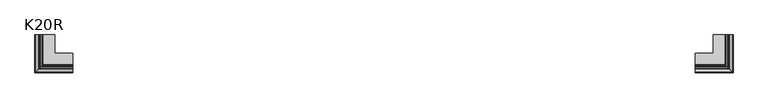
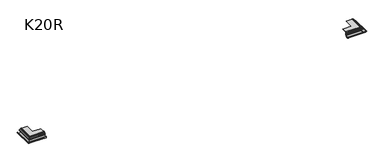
"""IFC4 building model written with IfcOpenShell, lengths in millimetres: proxy geometry, K20R Profil okapowy prosty z rynną : K20R."""

from ifc_helpers import new_model, si_unit, frame, origin, place, context, project, spatial, polyline, circle_curve, ellipse_curve, source, transform, mapped, element, save
from ifc_brep_helpers import plane_surface, cylinder_surface, revolved_surface, advanced_brep


def k20r_cac1ec52(model_context):
    return source(origin(), model_context, "Body", "AdvancedBrep", [
        advanced_brep(
        [(4779.8581812, -6.5000001, -42.1535519), (4779.8581812, -5.0999988, -40.7535506), (4779.8581812, -5.0999988, -45.8728048), (4779.8581812, -7.6128151, -48.2176778), (4779.8581812, -8.1261224, -51.8700476), (4779.8581812, -4.8412617, -50.4757071), (4779.8581812, -5.621057, -52.4241329), (4779.8581812, -8.427087, -54.009508), (4779.8581812, -58.1999995, -50.6475434), (4779.8581812, -56.7240776, -52.5390375), (4779.8581812, -9.7348852, -53.1671491), (4779.8581812, -8.8685397, -47.4134582), (4779.8581812, -6.5000001, -45.117797), (5007.9843036, -8.1261224, -51.8700476), (5004.6994428, -4.8412617, -50.4757071), (5005.4792382, -5.621057, -52.4241329), (5008.2852682, -8.427087, -54.009508), (5058.0581807, -58.1999995, -50.6475434), (5056.5822587, -56.7240776, -52.5390375), (5009.5930664, -9.7348852, -53.1671491), (5008.7267209, -8.8685397, -47.4134582), (5007.4709963, -7.6128151, -48.2176778), (5006.3581813, 220.0, -42.1535519), (5006.3581813, 220.0, -45.117797), (5008.7267209, 220.0, -47.4134582), (5009.5930664, 220.0, -53.1671491), (5056.5822587, 220.0, -52.5390375), (5058.0581807, 220.0, -50.6475434), (5008.2852682, 220.0, -54.009508), (5005.4792382, 220.0, -52.4241329), (5004.6994428, 220.0, -50.4757071), (5007.9843036, 220.0, -51.8700476), (5007.4709963, 220.0, -48.2176778), (5004.95818, 220.0, -45.8728048), (5004.95818, 220.0, -40.7535506), (5006.3581813, -6.5000001, -42.1535519), (5004.95818, -5.0999988, -40.7535506), (5004.95818, -5.0999988, -45.8728048), (5006.3581813, -6.5000001, -45.117797)],
        [
            (0, 1),
            (1, 2),
            (2, 3),
            (3, 4),
            (4, 5),
            (5, 6),
            (6, 7),
            (7, 8, circle_curve(frame((4779.8581812, -33.1999995, -50.6475434), z_axis=(-1.0, 0.0, 0.0), x_axis=(0.0, -1.0, 0.0)), 25.0)),
            (8, 9, circle_curve(frame((4779.8581812, -56.2499995, -50.6475434), z_axis=(-1.0, 0.0, 0.0), x_axis=(0.0, -1.0, 0.0)), 1.95)),
            (9, 10, circle_curve(frame((4779.8581812, -33.1999995, -50.6475434), z_axis=(1.0, 0.0, 0.0), x_axis=(0.0, -1.0, 0.0)), 23.6)),
            (10, 11),
            (11, 12),
            (12, 0),
            (4, 13),
            (13, 14),
            (14, 5),
            (14, 15),
            (15, 6),
            (15, 16),
            (16, 7),
            (16, 17, ellipse_curve(frame((5033.0581807, -33.1999995, -50.6475434), z_axis=(-0.7071067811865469, -0.707106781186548, 0.0), x_axis=(-0.7071067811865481, 0.7071067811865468, 0.0)), 35.3553391, 25.0)),
            (17, 8),
            (17, 18, ellipse_curve(frame((5056.1081807, -56.2499995, -50.6475434), z_axis=(-0.7071067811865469, -0.707106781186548, 0.0), x_axis=(-0.7071067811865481, 0.7071067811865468, 0.0)), 2.7577164, 1.95)),
            (18, 9),
            (18, 19, ellipse_curve(frame((5033.0581807, -33.1999995, -50.6475434), z_axis=(0.7071067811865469, 0.707106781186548, 0.0), x_axis=(0.7071067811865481, -0.7071067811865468, 0.0)), 33.3754401, 23.6)),
            (19, 10),
            (19, 20),
            (20, 11),
            (3, 21),
            (21, 13),
            (22, 23),
            (23, 24),
            (24, 25),
            (25, 26, circle_curve(frame((5033.0581807, 220.0, -50.6475434), z_axis=(0.0, -1.0, 0.0), x_axis=(1.0, 0.0, 0.0)), 23.6)),
            (26, 27, circle_curve(frame((5056.1081807, 220.0, -50.6475434), z_axis=(0.0, 1.0, 0.0), x_axis=(1.0, 0.0, 0.0)), 1.95)),
            (27, 28, circle_curve(frame((5033.0581807, 220.0, -50.6475434), z_axis=(0.0, 1.0, 0.0), x_axis=(1.0, 0.0, 0.0)), 25.0)),
            (28, 29),
            (29, 30),
            (30, 31),
            (31, 32),
            (32, 33),
            (33, 34),
            (34, 22),
            (13, 31),
            (30, 14),
            (29, 15),
            (28, 16),
            (27, 17),
            (26, 18),
            (25, 19),
            (24, 20),
            (21, 32),
            (0, 35),
            (35, 36),
            (36, 1),
            (36, 37),
            (37, 2),
            (37, 21),
            (20, 38),
            (38, 12),
            (38, 35),
            (35, 22),
            (34, 36),
            (33, 37),
            (23, 38),
        ],
        [
            plane_surface(frame((4779.8581812, 0.0, 0.0), z_axis=(-1.0, 0.0, 0.0), x_axis=(0.0, 0.0, 1.0))),
            plane_surface(frame((4779.8581812, -4.8412617, -50.4757071), z_axis=(0.0, -0.3907310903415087, 0.9205048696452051), x_axis=(1.0, 0.0, 0.0))),
            plane_surface(frame((4779.8581812, -5.621057, -52.4241329), z_axis=(0.0, 0.9284068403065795, -0.37156525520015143), x_axis=(1.0, 0.0, 0.0))),
            plane_surface(frame((4779.8581812, -8.427087, -54.009508), z_axis=(0.0, 0.49190631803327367, -0.8706481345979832), x_axis=(1.0, 0.0, 0.0))),
            cylinder_surface(frame((4779.8581812, -33.1999995, -50.6475434), z_axis=(-1.0, 0.0, 0.0), x_axis=(0.0, -1.0, 0.0)), 25.0),
            cylinder_surface(frame((4779.8581812, -56.2499995, -50.6475434), z_axis=(-1.0, 0.0, 0.0), x_axis=(0.0, -1.0, 0.0)), 1.95),
            revolved_surface(polyline([(5056.658180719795, -56.7999995, -50.6475434), (4779.8581812, -56.7999995, -50.6475434)]), (4779.8581812, -33.1999995, -50.6475434), (1.0, 0.0, 0.0)),
            plane_surface(frame((4779.8581812, -8.8685397, -47.4134582), z_axis=(0.0, -0.9888532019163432, 0.14889373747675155), x_axis=(1.0, 0.0, 0.0))),
            plane_surface(frame((4779.8581812, -8.1261224, -51.8700476), z_axis=(0.0, 0.9902680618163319, -0.13917315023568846), x_axis=(1.0, 0.0, 0.0))),
            plane_surface(frame((4999.8581812, 220.0, 0.0), z_axis=(0.0, 1.0, 0.0), x_axis=(0.0, 0.0, 1.0))),
            plane_surface(frame((5004.6994428, -4.8412617, -50.4757071), z_axis=(0.3907310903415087, 0.0, 0.9205048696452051), x_axis=(0.0, 1.0, 0.0))),
            plane_surface(frame((5005.4792382, -5.621057, -52.4241329), z_axis=(-0.9284068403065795, 0.0, -0.37156525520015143), x_axis=(0.0, 1.0, 0.0))),
            plane_surface(frame((5008.2852682, -8.427087, -54.009508), z_axis=(-0.49190631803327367, 0.0, -0.8706481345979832), x_axis=(0.0, 1.0, 0.0))),
            cylinder_surface(frame((5033.0581807, 0.0, -50.6475434), z_axis=(0.0, -1.0, 0.0), x_axis=(1.0, 0.0, 0.0)), 25.0),
            cylinder_surface(frame((5056.1081807, 0.0, -50.6475434), z_axis=(0.0, -1.0, 0.0), x_axis=(1.0, 0.0, 0.0)), 1.95),
            revolved_surface(polyline([(5056.6581807, 220.0, -50.6475434), (5056.6581807, -56.79999951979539, -50.6475434)]), (5033.0581807, 0.0, -50.6475434), (0.0, 1.0, 0.0)),
            plane_surface(frame((5008.7267209, -8.8685397, -47.4134582), z_axis=(0.9888532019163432, 0.0, 0.14889373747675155), x_axis=(0.0, 1.0, 0.0))),
            plane_surface(frame((5007.9843036, -8.1261224, -51.8700476), z_axis=(-0.9902680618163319, 0.0, -0.13917315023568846), x_axis=(0.0, 1.0, 0.0))),
            plane_surface(frame((4779.8581812, -5.0999988, -40.7535506), z_axis=(0.0, -0.7071067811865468, 0.7071067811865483), x_axis=(1.0, 0.0, 0.0))),
            plane_surface(frame((4779.8581812, -5.0999988, -45.8728048), z_axis=(0.0, 1.0, 0.0), x_axis=(1.0, 0.0, 0.0))),
            plane_surface(frame((4779.8581812, -7.6128151, -48.2176778), z_axis=(0.0, 0.6822525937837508, -0.7311165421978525), x_axis=(1.0, 0.0, 0.0))),
            plane_surface(frame((4779.8581812, -6.5000001, -45.117797), z_axis=(0.0, -0.6959732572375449, 0.7180677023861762), x_axis=(1.0, 0.0, 0.0))),
            plane_surface(frame((4779.8581812, -6.5000001, -42.1535519), z_axis=(0.0, -1.0, 0.0), x_axis=(1.0, 0.0, 0.0))),
            plane_surface(frame((5004.95818, -5.0999988, -40.7535506), z_axis=(0.7071067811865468, 0.0, 0.7071067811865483), x_axis=(0.0, 1.0, 0.0))),
            plane_surface(frame((5004.95818, -5.0999988, -45.8728048), z_axis=(-1.0, 0.0, 0.0), x_axis=(0.0, 1.0, 0.0))),
            plane_surface(frame((5007.4709963, -7.6128151, -48.2176778), z_axis=(-0.6822525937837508, 0.0, -0.7311165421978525), x_axis=(0.0, 1.0, 0.0))),
            plane_surface(frame((5006.3581813, -6.5000001, -45.117797), z_axis=(0.6959732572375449, 0.0, 0.7180677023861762), x_axis=(0.0, 1.0, 0.0))),
            plane_surface(frame((5006.3581813, -6.5000001, -42.1535519), z_axis=(1.0, 0.0, 0.0), x_axis=(0.0, 1.0, 0.0))),
        ],
        [
            (0, [[1, 2, 3, 4, 5, 6, 7, 8, 9, 10, 11, 12, 13]]),
            (1, [[14, 15, 16, -5]]),
            (2, [[-16, 17, 18, -6]]),
            (3, [[-18, 19, 20, -7]]),
            (4, [[-20, 21, 22, -8]]),
            (5, [[-22, 23, 24, -9]]),
            (6, [[-24, 25, 26, -10]]),
            (7, [[-26, 27, 28, -11]]),
            (8, [[29, 30, -14, -4]]),
            (9, [[31, 32, 33, 34, 35, 36, 37, 38, 39, 40, 41, 42, 43]]),
            (10, [[44, -39, 45, -15]]),
            (11, [[-45, -38, 46, -17]]),
            (12, [[-46, -37, 47, -19]]),
            (13, [[-47, -36, 48, -21]]),
            (14, [[-48, -35, 49, -23]]),
            (15, [[-49, -34, 50, -25]]),
            (16, [[-50, -33, 51, -27]]),
            (17, [[52, -40, -44, -30]]),
            (18, [[53, 54, 55, -1]]),
            (19, [[-55, 56, 57, -2]]),
            (20, [[-57, 58, -29, -3]]),
            (21, [[-28, 59, 60, -12]]),
            (22, [[-60, 61, -53, -13]]),
            (23, [[62, -43, 63, -54]]),
            (24, [[-63, -42, 64, -56]]),
            (25, [[-64, -41, -52, -58]]),
            (26, [[-51, -32, 65, -59]]),
            (27, [[-65, -31, -62, -61]]),
        ],
    ),
        advanced_brep(
        [(4779.8581812, -4.0000007, -8.2869169), (4779.8581812, -4.0000007, -4.0987801), (4779.8581812, 0.0, 0.0), (4779.8581812, 0.0, -1.6007811), (4779.8581812, -2.3999996, -4.1001397), (4779.8581812, -2.3999996, -9.6198913), (4779.8581812, 87.2999988, -9.6198913), (4779.8581812, 87.2999988, -11.9198912), (4779.8581812, 4.7999993, -11.9198912), (4779.8581812, 4.7999993, -16.6198916), (4779.8581812, 3.6000013, -16.6198916), (4779.8581812, 3.6000013, -11.9198912), (4779.8581812, -1.3999986, -11.9198912), (4779.8581812, -1.3999986, -50.494891), (4779.8581812, -2.8999983, -51.9948908), (4779.8581812, -2.8999983, -11.9198912), (4779.8581812, -3.9703269, -11.9198912), (4779.8581812, -13.5823481, -12.255551), (4779.8581812, -14.4327213, -12.5566837), (4779.8581812, -26.3036302, -21.502055), (4779.8581812, -27.1, -23.0993261), (4779.8581812, -27.1, -27.0198916), (4779.8581812, -28.8, -27.0198916), (4779.8581812, -28.8, -22.750319), (4779.8581812, -27.6054451, -20.3544125), (4779.8581812, -15.4054451, -11.1610531), (4779.8581812, -13.7033457, -10.5587402), (4779.8581812, -5.930201, -10.2872957), (5003.8581818, 220.0, -8.2869169), (5005.7883821, 220.0, -10.2872957), (5013.5615269, 220.0, -10.5587402), (5015.2636263, 220.0, -11.1610531), (5027.4636262, 220.0, -20.3544126), (5028.6581812, 220.0, -22.750319), (5028.6581812, 220.0, -27.0198916), (5026.9581812, 220.0, -27.0198916), (5026.9581812, 220.0, -23.0993261), (5026.1618112, 220.0, -21.5020551), (5014.2909026, 220.0, -12.5566836), (5013.4405293, 220.0, -12.2555508), (5003.828508, 220.0, -11.9198912), (5002.7581795, 220.0, -11.9198912), (5002.7581795, 220.0, -51.9948908), (5001.2581797, 220.0, -50.494891), (5001.2581797, 220.0, -11.9198912), (4996.2581798, 220.0, -11.9198912), (4996.2581798, 220.0, -16.6198916), (4995.0581819, 220.0, -16.6198916), (4995.0581819, 220.0, -11.9198912), (4912.5581823, 220.0, -11.9198912), (4912.5581823, 220.0, -9.6198913), (5002.2581808, 220.0, -9.6198913), (5002.2581808, 220.0, -4.1001397), (4999.8581812, 220.0, -1.6007811), (4999.8581812, 220.0, 0.0), (5003.8581812, 220.0, -4.0987803), (5005.7883821, -5.930201, -10.2872957), (5003.8581818, -4.0000007, -8.2869169), (5026.1618113, -26.3036301, -21.5020551), (5026.9581812, -27.1, -23.0993261), (5026.9581812, -27.1, -27.0198916), (5028.6581812, -28.8, -27.0198916), (5028.6581812, -28.8, -22.750319), (5027.4636263, -27.6054451, -20.3544125), (5015.2636263, -15.4054451, -11.1610531), (5013.5615269, -13.7033457, -10.5587402), (5003.8581818, -4.0000007, -4.0987801), (5014.2909025, -14.4327214, -12.5566836), (5013.4405293, -13.5823481, -12.2555508), (5003.828508, -3.9703269, -11.9198912), (5002.7581795, -2.8999983, -11.9198912), (5002.7581795, -2.8999983, -51.9948908), (5001.2581797, -1.3999986, -50.494891), (5001.2581797, -1.3999986, -11.9198912), (4996.2581798, 3.6000013, -11.9198912), (4996.2581798, 3.6000013, -16.6198916), (4995.0581819, 4.7999993, -16.6198916), (4995.0581819, 4.7999993, -11.9198912), (4912.5581823, 87.2999988, -11.9198912), (4912.5581823, 87.2999988, -9.6198913), (5002.2581808, -2.3999996, -9.6198913), (5002.2581808, -2.3999996, -4.1001397), (4999.8581812, 0.0, -1.6007811), (4999.8581812, 0.0, 0.0)],
        [
            (0, 1),
            (1, 2, circle_curve(frame((4779.8581812, 0.1, -4.0987803), z_axis=(-1.0, 0.0, 0.0), x_axis=(0.0, 1.0, 0.0)), 4.1)),
            (2, 3),
            (3, 4, circle_curve(frame((4779.8581812, 0.1, -4.0987803), z_axis=(1.0, 0.0, 0.0), x_axis=(0.0, 1.0, 0.0)), 2.5)),
            (4, 5),
            (5, 6),
            (6, 7),
            (7, 8),
            (8, 9),
            (9, 10),
            (10, 11),
            (11, 12),
            (12, 13),
            (13, 14),
            (14, 15),
            (15, 16),
            (16, 17),
            (17, 18, circle_curve(frame((4779.8581812, -13.5299988, -13.754637), z_axis=(1.0, 0.0, 0.0), x_axis=(0.0, 1.0, 0.0)), 1.5)),
            (18, 19),
            (19, 20, circle_curve(frame((4779.8581812, -25.1, -23.0993261), z_axis=(1.0, 0.0, 0.0), x_axis=(0.0, 1.0, 0.0)), 2.0)),
            (20, 21),
            (21, 22, circle_curve(frame((4779.8581812, -27.95, -27.0198916), z_axis=(-1.0, 0.0, 0.0), x_axis=(0.0, 1.0, 0.0)), 0.85)),
            (22, 23),
            (23, 24, circle_curve(frame((4779.8581812, -25.8, -22.750319), z_axis=(-1.0, 0.0, 0.0), x_axis=(0.0, 1.0, 0.0)), 3.0)),
            (24, 25),
            (25, 26, circle_curve(frame((4779.8581812, -13.6, -13.5569596), z_axis=(-1.0, 0.0, 0.0), x_axis=(0.0, 1.0, 0.0)), 3.0)),
            (26, 27),
            (27, 0, circle_curve(frame((4779.8581812, -6.0, -8.288514), z_axis=(1.0, 0.0, 0.0), x_axis=(0.0, 1.0, 0.0)), 2.0)),
            (28, 29, circle_curve(frame((5005.8581812, 220.0, -8.288514), z_axis=(0.0, -1.0, 0.0), x_axis=(-1.0, 0.0, 0.0)), 2.0)),
            (29, 30),
            (30, 31, circle_curve(frame((5013.4581812, 220.0, -13.5569596), z_axis=(0.0, 1.0, 0.0), x_axis=(-1.0, 0.0, 0.0)), 3.0)),
            (31, 32),
            (32, 33, circle_curve(frame((5025.6581812, 220.0, -22.750319), z_axis=(0.0, 1.0, 0.0), x_axis=(-1.0, 0.0, 0.0)), 3.0)),
            (33, 34),
            (34, 35, circle_curve(frame((5027.8081812, 220.0, -27.0198916), z_axis=(0.0, 1.0, 0.0), x_axis=(-1.0, 0.0, 0.0)), 0.85)),
            (35, 36),
            (36, 37, circle_curve(frame((5024.9581812, 220.0, -23.0993261), z_axis=(0.0, -1.0, 0.0), x_axis=(-1.0, 0.0, 0.0)), 2.0)),
            (37, 38),
            (38, 39, circle_curve(frame((5013.3881799, 220.0, -13.754637), z_axis=(0.0, -1.0, 0.0), x_axis=(-1.0, 0.0, 0.0)), 1.5)),
            (39, 40),
            (40, 41),
            (41, 42),
            (42, 43),
            (43, 44),
            (44, 45),
            (45, 46),
            (46, 47),
            (47, 48),
            (48, 49),
            (49, 50),
            (50, 51),
            (51, 52),
            (52, 53, circle_curve(frame((4999.7581812, 220.0, -4.0987803), z_axis=(0.0, -1.0, 0.0), x_axis=(-1.0, 0.0, 0.0)), 2.5)),
            (53, 54),
            (54, 55, circle_curve(frame((4999.7581812, 220.0, -4.0987803), z_axis=(0.0, 1.0, 0.0), x_axis=(-1.0, 0.0, 0.0)), 4.1)),
            (55, 28),
            (27, 56),
            (56, 57, ellipse_curve(frame((5005.8581812, -6.0, -8.288514), z_axis=(0.7071067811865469, 0.7071067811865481, 0.0), x_axis=(0.7071067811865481, -0.7071067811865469, 0.0)), 2.8284271, 2.0)),
            (57, 0),
            (19, 58),
            (58, 59, ellipse_curve(frame((5024.9581812, -25.1, -23.0993261), z_axis=(0.7071067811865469, 0.7071067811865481, 0.0), x_axis=(0.7071067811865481, -0.7071067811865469, 0.0)), 2.8284271, 2.0)),
            (59, 20),
            (59, 60),
            (60, 21),
            (60, 61, ellipse_curve(frame((5027.8081812, -27.95, -27.0198916), z_axis=(-0.7071067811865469, -0.7071067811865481, 0.0), x_axis=(-0.7071067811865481, 0.7071067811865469, 0.0)), 1.2020815, 0.85)),
            (61, 22),
            (61, 62),
            (62, 23),
            (62, 63, ellipse_curve(frame((5025.6581812, -25.8, -22.750319), z_axis=(-0.7071067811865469, -0.7071067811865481, 0.0), x_axis=(-0.7071067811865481, 0.7071067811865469, 0.0)), 4.2426407, 3.0)),
            (63, 24),
            (63, 64),
            (64, 25),
            (64, 65, ellipse_curve(frame((5013.4581812, -13.6, -13.5569596), z_axis=(-0.7071067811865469, -0.7071067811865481, 0.0), x_axis=(-0.7071067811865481, 0.7071067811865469, 0.0)), 4.2426407, 3.0)),
            (65, 26),
            (65, 56),
            (57, 66),
            (66, 1),
            (56, 29),
            (28, 57),
            (58, 37),
            (36, 59),
            (35, 60),
            (34, 61),
            (33, 62),
            (32, 63),
            (31, 64),
            (30, 65),
            (55, 66),
            (18, 67),
            (67, 58),
            (17, 68),
            (68, 67, ellipse_curve(frame((5013.3881799, -13.5299988, -13.754637), z_axis=(0.7071067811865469, 0.7071067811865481, 0.0), x_axis=(0.7071067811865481, -0.7071067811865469, 0.0)), 2.1213203, 1.5)),
            (16, 69),
            (69, 68),
            (15, 70),
            (70, 41),
            (40, 69),
            (14, 71),
            (71, 70),
            (13, 72),
            (72, 71),
            (12, 73),
            (73, 72),
            (11, 74),
            (74, 45),
            (44, 73),
            (10, 75),
            (75, 74),
            (9, 76),
            (76, 47),
            (46, 75),
            (8, 77),
            (77, 76),
            (7, 78),
            (78, 49),
            (48, 77),
            (6, 79),
            (79, 78),
            (5, 80),
            (80, 51),
            (50, 79),
            (4, 81),
            (81, 80),
            (3, 82),
            (82, 81, ellipse_curve(frame((4999.7581812, 0.1, -4.0987803), z_axis=(0.7071067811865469, 0.7071067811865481, 0.0), x_axis=(0.7071067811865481, -0.7071067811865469, 0.0)), 3.5355339, 2.5)),
            (2, 83),
            (83, 82),
            (66, 83, ellipse_curve(frame((4999.7581812, 0.1, -4.0987803), z_axis=(-0.7071067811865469, -0.7071067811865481, 0.0), x_axis=(-0.7071067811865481, 0.7071067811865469, 0.0)), 5.7982756, 4.1)),
            (67, 38),
            (68, 39),
            (71, 42),
            (72, 43),
            (81, 52),
            (82, 53),
            (83, 54),
        ],
        [
            plane_surface(frame((4779.8581812, 0.0, 0.0), z_axis=(-1.0, 0.0, 0.0), x_axis=(0.0, 0.0, 1.0))),
            plane_surface(frame((4999.8581812, 220.0, 0.0), z_axis=(0.0, 1.0, 0.0), x_axis=(0.0, 0.0, 1.0))),
            revolved_surface(polyline([(5007.858181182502, -4.0, -8.288514), (4779.8581812, -4.0, -8.288514)]), (4779.8581812, -6.0, -8.288514), (1.0, 0.0, 0.0)),
            revolved_surface(polyline([(5026.9581812, -23.1, -23.0993261), (4779.8581812, -23.1, -23.0993261)]), (4779.8581812, -25.1, -23.0993261), (1.0, 0.0, 0.0)),
            plane_surface(frame((4779.8581812, -27.1, -27.0198916), z_axis=(0.0, 1.0, 0.0), x_axis=(1.0, 0.0, 0.0))),
            cylinder_surface(frame((4779.8581812, -27.95, -27.0198916), z_axis=(-1.0, 0.0, 0.0), x_axis=(0.0, 1.0, 0.0)), 0.85),
            plane_surface(frame((4779.8581812, -28.8, -22.750319), z_axis=(0.0, -1.0, 0.0), x_axis=(1.0, 0.0, 0.0))),
            cylinder_surface(frame((4779.8581812, -25.8, -22.750319), z_axis=(-1.0, 0.0, 0.0), x_axis=(0.0, 1.0, 0.0)), 3.0),
            plane_surface(frame((4779.8581812, -15.4054451, -11.1610531), z_axis=(0.0, -0.6018150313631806, 0.7986355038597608), x_axis=(1.0, 0.0, 0.0))),
            cylinder_surface(frame((4779.8581812, -13.6, -13.5569596), z_axis=(-1.0, 0.0, 0.0), x_axis=(0.0, 1.0, 0.0)), 3.0),
            plane_surface(frame((4779.8581812, -5.930201, -10.2872957), z_axis=(0.0, -0.03489952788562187, 0.9993908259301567), x_axis=(1.0, 0.0, 0.0))),
            plane_surface(frame((4779.8581812, -4.0000007, -4.0987801), z_axis=(0.0, -1.0, 0.0), x_axis=(1.0, 0.0, 0.0))),
            revolved_surface(polyline([(5003.8581812, 220.0, -8.288514), (5003.8581812, -7.9999999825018, -8.288514)]), (5005.8581812, 0.0, -8.288514), (0.0, 1.0, 0.0)),
            revolved_surface(polyline([(5022.9581812, 220.0, -23.0993261), (5022.9581812, -27.1, -23.0993261)]), (5024.9581812, 0.0, -23.0993261), (0.0, 1.0, 0.0)),
            plane_surface(frame((5026.9581812, -27.1, -27.0198916), z_axis=(-1.0, 0.0, 0.0), x_axis=(0.0, 1.0, 0.0))),
            cylinder_surface(frame((5027.8081812, 0.0, -27.0198916), z_axis=(0.0, -1.0, 0.0), x_axis=(-1.0, 0.0, 0.0)), 0.85),
            plane_surface(frame((5028.6581812, -28.8, -22.750319), z_axis=(1.0, 0.0, 0.0), x_axis=(0.0, 1.0, 0.0))),
            cylinder_surface(frame((5025.6581812, 0.0, -22.750319), z_axis=(0.0, -1.0, 0.0), x_axis=(-1.0, 0.0, 0.0)), 3.0),
            plane_surface(frame((5015.2636263, -15.4054451, -11.1610531), z_axis=(0.6018150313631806, 0.0, 0.7986355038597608), x_axis=(0.0, 1.0, 0.0))),
            cylinder_surface(frame((5013.4581812, 0.0, -13.5569596), z_axis=(0.0, -1.0, 0.0), x_axis=(-1.0, 0.0, 0.0)), 3.0),
            plane_surface(frame((5005.7883821, -5.930201, -10.2872957), z_axis=(0.03489952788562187, 0.0, 0.9993908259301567), x_axis=(0.0, 1.0, 0.0))),
            plane_surface(frame((5003.8581818, -4.0000007, -4.0987801), z_axis=(1.0, 0.0, 0.0), x_axis=(0.0, 1.0, 0.0))),
            plane_surface(frame((4779.8581812, -26.3036302, -21.502055), z_axis=(0.0, 0.6018150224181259, -0.7986355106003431), x_axis=(1.0, 0.0, 0.0))),
            revolved_surface(polyline([(5014.888179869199, -12.0299988, -13.754637), (4779.8581812, -12.0299988, -13.754637)]), (4779.8581812, -13.5299988, -13.754637), (1.0, 0.0, 0.0)),
            plane_surface(frame((4779.8581812, -13.5823481, -12.255551), z_axis=(0.0, 0.034899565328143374, -0.9993908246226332), x_axis=(1.0, 0.0, 0.0))),
            plane_surface(frame((4779.8581812, -3.9703269, -11.9198912), z_axis=(0.0, 0.0, -1.0), x_axis=(1.0, 0.0, 0.0))),
            plane_surface(frame((4779.8581812, -2.8999983, -11.9198912), z_axis=(0.0, -1.0, 0.0), x_axis=(1.0, 0.0, 0.0))),
            plane_surface(frame((4779.8581812, -2.8999983, -51.9948908), z_axis=(0.0, 0.7071067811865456, -0.7071067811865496), x_axis=(1.0, 0.0, 0.0))),
            plane_surface(frame((4779.8581812, -1.3999986, -50.494891), z_axis=(0.0, 1.0, 0.0), x_axis=(1.0, 0.0, 0.0))),
            plane_surface(frame((4779.8581812, -1.3999986, -11.9198912), z_axis=(0.0, 0.0, -1.0), x_axis=(1.0, 0.0, 0.0))),
            plane_surface(frame((4779.8581812, 3.6000013, -11.9198912), z_axis=(0.0, -1.0, 0.0), x_axis=(1.0, 0.0, 0.0))),
            plane_surface(frame((4779.8581812, 3.6000013, -16.6198916), z_axis=(0.0, 0.0, -1.0), x_axis=(1.0, 0.0, 0.0))),
            plane_surface(frame((4779.8581812, 4.7999993, -16.6198916), z_axis=(0.0, 1.0, 0.0), x_axis=(1.0, 0.0, 0.0))),
            plane_surface(frame((4779.8581812, 4.7999993, -11.9198912), z_axis=(0.0, 0.0, -1.0), x_axis=(1.0, 0.0, 0.0))),
            plane_surface(frame((4779.8581812, 87.2999988, -11.9198912), z_axis=(0.0, 1.0, 0.0), x_axis=(1.0, 0.0, 0.0))),
            plane_surface(frame((4779.8581812, 87.2999988, -9.6198913), z_axis=(0.0, 0.0, 1.0), x_axis=(1.0, 0.0, 0.0))),
            plane_surface(frame((4779.8581812, -2.3999996, -9.6198913), z_axis=(0.0, 1.0, 0.0), x_axis=(1.0, 0.0, 0.0))),
            revolved_surface(polyline([(5002.258181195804, 2.6, -4.0987803), (4779.8581812, 2.6, -4.0987803)]), (4779.8581812, 0.1, -4.0987803), (1.0, 0.0, 0.0)),
            plane_surface(frame((4779.8581812, 0.0, -1.6007811), z_axis=(0.0, 1.0, 0.0), x_axis=(1.0, 0.0, 0.0))),
            cylinder_surface(frame((4779.8581812, 0.1, -4.0987803), z_axis=(-1.0, 0.0, 0.0), x_axis=(0.0, 1.0, 0.0)), 4.1),
            plane_surface(frame((5026.1618113, -26.3036302, -21.502055), z_axis=(-0.6018150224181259, 0.0, -0.7986355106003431), x_axis=(0.0, 1.0, 0.0))),
            revolved_surface(polyline([(5011.8881799, 220.0, -13.754637), (5011.8881799, -15.029998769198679, -13.754637)]), (5013.3881799, 0.0, -13.754637), (0.0, 1.0, 0.0)),
            plane_surface(frame((5013.4405293, -13.5823481, -12.255551), z_axis=(-0.034899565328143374, 0.0, -0.9993908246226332), x_axis=(0.0, 1.0, 0.0))),
            plane_surface(frame((5002.7581795, -2.8999983, -11.9198912), z_axis=(1.0, 0.0, 0.0), x_axis=(0.0, 1.0, 0.0))),
            plane_surface(frame((5002.7581795, -2.8999983, -51.9948908), z_axis=(-0.7071067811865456, 0.0, -0.7071067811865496), x_axis=(0.0, 1.0, 0.0))),
            plane_surface(frame((5001.2581797, -1.3999986, -50.494891), z_axis=(-1.0, 0.0, 0.0), x_axis=(0.0, 1.0, 0.0))),
            plane_surface(frame((4996.2581798, 3.6000013, -11.9198912), z_axis=(1.0, 0.0, 0.0), x_axis=(0.0, 1.0, 0.0))),
            plane_surface(frame((4995.0581819, 4.7999993, -16.6198916), z_axis=(-1.0, 0.0, 0.0), x_axis=(0.0, 1.0, 0.0))),
            plane_surface(frame((4912.5581823, 87.2999988, -11.9198912), z_axis=(-1.0, 0.0, 0.0), x_axis=(0.0, 1.0, 0.0))),
            plane_surface(frame((5002.2581808, -2.3999996, -9.6198913), z_axis=(-1.0, 0.0, 0.0), x_axis=(0.0, 1.0, 0.0))),
            revolved_surface(polyline([(4997.2581812, 220.0, -4.0987803), (4997.2581812, -2.3999999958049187, -4.0987803)]), (4999.7581812, 0.0, -4.0987803), (0.0, 1.0, 0.0)),
            plane_surface(frame((4999.8581812, 0.0, -1.6007811), z_axis=(-1.0, 0.0, 0.0), x_axis=(0.0, 1.0, 0.0))),
            cylinder_surface(frame((4999.7581812, 0.0, -4.0987803), z_axis=(0.0, -1.0, 0.0), x_axis=(-1.0, 0.0, 0.0)), 4.1),
        ],
        [
            (0, [[1, 2, 3, 4, 5, 6, 7, 8, 9, 10, 11, 12, 13, 14, 15, 16, 17, 18, 19, 20, 21, 22, 23, 24, 25, 26, 27, 28]]),
            (1, [[29, 30, 31, 32, 33, 34, 35, 36, 37, 38, 39, 40, 41, 42, 43, 44, 45, 46, 47, 48, 49, 50, 51, 52, 53, 54, 55, 56]]),
            (2, [[57, 58, 59, -28]]),
            (3, [[60, 61, 62, -20]]),
            (4, [[-62, 63, 64, -21]]),
            (5, [[-64, 65, 66, -22]]),
            (6, [[-66, 67, 68, -23]]),
            (7, [[-68, 69, 70, -24]]),
            (8, [[-70, 71, 72, -25]]),
            (9, [[-72, 73, 74, -26]]),
            (10, [[-74, 75, -57, -27]]),
            (11, [[-59, 76, 77, -1]]),
            (12, [[78, -29, 79, -58]]),
            (13, [[80, -37, 81, -61]]),
            (14, [[-81, -36, 82, -63]]),
            (15, [[-82, -35, 83, -65]]),
            (16, [[-83, -34, 84, -67]]),
            (17, [[-84, -33, 85, -69]]),
            (18, [[-85, -32, 86, -71]]),
            (19, [[-86, -31, 87, -73]]),
            (20, [[-87, -30, -78, -75]]),
            (21, [[-79, -56, 88, -76]]),
            (22, [[89, 90, -60, -19]]),
            (23, [[91, 92, -89, -18]]),
            (24, [[93, 94, -91, -17]]),
            (25, [[95, 96, -41, 97, -93, -16]]),
            (26, [[98, 99, -95, -15]]),
            (27, [[100, 101, -98, -14]]),
            (28, [[102, 103, -100, -13]]),
            (29, [[104, 105, -45, 106, -102, -12]]),
            (30, [[107, 108, -104, -11]]),
            (31, [[109, 110, -47, 111, -107, -10]]),
            (32, [[112, 113, -109, -9]]),
            (33, [[114, 115, -49, 116, -112, -8]]),
            (34, [[117, 118, -114, -7]]),
            (35, [[119, 120, -51, 121, -117, -6]]),
            (36, [[122, 123, -119, -5]]),
            (37, [[124, 125, -122, -4]]),
            (38, [[126, 127, -124, -3]]),
            (39, [[-77, 128, -126, -2]]),
            (40, [[129, -38, -80, -90]]),
            (41, [[130, -39, -129, -92]]),
            (42, [[-97, -40, -130, -94]]),
            (43, [[131, -42, -96, -99]]),
            (44, [[132, -43, -131, -101]]),
            (45, [[-106, -44, -132, -103]]),
            (46, [[-111, -46, -105, -108]]),
            (47, [[-116, -48, -110, -113]]),
            (48, [[-121, -50, -115, -118]]),
            (49, [[133, -52, -120, -123]]),
            (50, [[134, -53, -133, -125]]),
            (51, [[135, -54, -134, -127]]),
            (52, [[-88, -55, -135, -128]]),
        ],
    ),
        advanced_brep(
        [(220.0, -6.5000001, -42.1535519), (220.0, -6.5000001, -45.117797), (220.0, -8.8685397, -47.4134582), (220.0, -9.7348852, -53.1671491), (220.0, -56.7240776, -52.5390375), (220.0, -58.1999995, -50.6475434), (220.0, -8.427087, -54.009508), (220.0, -5.621057, -52.4241329), (220.0, -4.8412617, -50.4757071), (220.0, -8.1261224, -51.8700476), (220.0, -7.6128151, -48.2176778), (220.0, -5.0999988, -45.8728048), (220.0, -5.0999988, -40.7535506), (-4.8412617, -4.8412617, -50.4757071), (-8.1261224, -8.1261224, -51.8700476), (-5.621057, -5.621057, -52.4241329), (-8.427087, -8.427087, -54.009508), (-58.1999995, -58.1999995, -50.6475434), (-56.7240776, -56.7240776, -52.5390375), (-9.7348852, -9.7348852, -53.1671491), (-8.8685397, -8.8685397, -47.4134582), (-7.6128151, -7.6128151, -48.2176778), (-6.5000001, 220.0, -42.1535519), (-5.0999988, 220.0, -40.7535506), (-5.0999988, 220.0, -45.8728048), (-7.6128151, 220.0, -48.2176778), (-8.1261224, 220.0, -51.8700476), (-4.8412617, 220.0, -50.4757071), (-5.621057, 220.0, -52.4241329), (-8.427087, 220.0, -54.009508), (-58.1999995, 220.0, -50.6475434), (-56.7240776, 220.0, -52.5390375), (-9.7348852, 220.0, -53.1671491), (-8.8685397, 220.0, -47.4134582), (-6.5000001, 220.0, -45.117797), (-5.0999988, -5.0999988, -40.7535506), (-6.5000001, -6.5000001, -42.1535519), (-5.0999988, -5.0999988, -45.8728048), (-6.5000001, -6.5000001, -45.117797)],
        [
            (0, 1),
            (1, 2),
            (2, 3),
            (3, 4, circle_curve(frame((220.0, -33.1999995, -50.6475434), z_axis=(-1.0, 0.0, 0.0), x_axis=(0.0, -1.0, 0.0)), 23.6)),
            (4, 5, circle_curve(frame((220.0, -56.2499995, -50.6475434), z_axis=(1.0, 0.0, 0.0), x_axis=(0.0, -1.0, 0.0)), 1.95)),
            (5, 6, circle_curve(frame((220.0, -33.1999995, -50.6475434), z_axis=(1.0, 0.0, 0.0), x_axis=(0.0, -1.0, 0.0)), 25.0)),
            (6, 7),
            (7, 8),
            (8, 9),
            (9, 10),
            (10, 11),
            (11, 12),
            (12, 0),
            (8, 13),
            (13, 14),
            (14, 9),
            (7, 15),
            (15, 13),
            (6, 16),
            (16, 15),
            (5, 17),
            (17, 16, ellipse_curve(frame((-33.1999995, -33.1999995, -50.6475434), z_axis=(0.7071067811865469, -0.707106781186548, 0.0), x_axis=(0.7071067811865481, 0.7071067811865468, 0.0)), 35.3553391, 25.0)),
            (4, 18),
            (18, 17, ellipse_curve(frame((-56.2499995, -56.2499995, -50.6475434), z_axis=(0.7071067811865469, -0.707106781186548, 0.0), x_axis=(0.7071067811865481, 0.7071067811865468, 0.0)), 2.7577164, 1.95)),
            (3, 19),
            (19, 18, ellipse_curve(frame((-33.1999995, -33.1999995, -50.6475434), z_axis=(-0.7071067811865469, 0.707106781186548, 0.0), x_axis=(-0.7071067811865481, -0.7071067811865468, 0.0)), 33.3754401, 23.6)),
            (2, 20),
            (20, 19),
            (14, 21),
            (21, 10),
            (22, 23),
            (23, 24),
            (24, 25),
            (25, 26),
            (26, 27),
            (27, 28),
            (28, 29),
            (29, 30, circle_curve(frame((-33.1999995, 220.0, -50.6475434), z_axis=(0.0, 1.0, 0.0), x_axis=(-1.0, 0.0, 0.0)), 25.0)),
            (30, 31, circle_curve(frame((-56.2499995, 220.0, -50.6475434), z_axis=(0.0, 1.0, 0.0), x_axis=(-1.0, 0.0, 0.0)), 1.95)),
            (31, 32, circle_curve(frame((-33.1999995, 220.0, -50.6475434), z_axis=(0.0, -1.0, 0.0), x_axis=(-1.0, 0.0, 0.0)), 23.6)),
            (32, 33),
            (33, 34),
            (34, 22),
            (13, 27),
            (26, 14),
            (15, 28),
            (16, 29),
            (17, 30),
            (18, 31),
            (19, 32),
            (20, 33),
            (25, 21),
            (12, 35),
            (35, 36),
            (36, 0),
            (11, 37),
            (37, 35),
            (21, 37),
            (1, 38),
            (38, 20),
            (36, 38),
            (35, 23),
            (22, 36),
            (37, 24),
            (38, 34),
        ],
        [
            plane_surface(frame((220.0, 0.0, 0.0), z_axis=(1.0, 0.0, 0.0), x_axis=(0.0, 0.0, 1.0))),
            plane_surface(frame((220.0, -4.8412617, -50.4757071), z_axis=(0.0, -0.3907310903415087, 0.9205048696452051), x_axis=(-1.0, 0.0, 0.0))),
            plane_surface(frame((220.0, -5.621057, -52.4241329), z_axis=(0.0, 0.9284068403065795, -0.37156525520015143), x_axis=(-1.0, 0.0, 0.0))),
            plane_surface(frame((220.0, -8.427087, -54.009508), z_axis=(0.0, 0.49190631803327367, -0.8706481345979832), x_axis=(-1.0, 0.0, 0.0))),
            cylinder_surface(frame((220.0, -33.1999995, -50.6475434), z_axis=(1.0, 0.0, 0.0), x_axis=(0.0, -1.0, 0.0)), 25.0),
            cylinder_surface(frame((220.0, -56.2499995, -50.6475434), z_axis=(1.0, 0.0, 0.0), x_axis=(0.0, -1.0, 0.0)), 1.95),
            revolved_surface(polyline([(-56.79999951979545, -56.7999995, -50.6475434), (220.0, -56.7999995, -50.6475434)]), (220.0, -33.1999995, -50.6475434), (-1.0, 0.0, 0.0)),
            plane_surface(frame((220.0, -8.8685397, -47.4134582), z_axis=(0.0, -0.9888532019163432, 0.14889373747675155), x_axis=(-1.0, 0.0, 0.0))),
            plane_surface(frame((220.0, -8.1261224, -51.8700476), z_axis=(0.0, 0.9902680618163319, -0.13917315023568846), x_axis=(-1.0, 0.0, 0.0))),
            plane_surface(frame((0.0, 220.0, 0.0), z_axis=(0.0, 1.0, 0.0), x_axis=(0.0, 0.0, 1.0))),
            plane_surface(frame((-4.8412617, -4.8412617, -50.4757071), z_axis=(-0.3907310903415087, 0.0, 0.9205048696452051), x_axis=(0.0, 1.0, 0.0))),
            plane_surface(frame((-5.621057, -5.621057, -52.4241329), z_axis=(0.9284068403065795, 0.0, -0.37156525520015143), x_axis=(0.0, 1.0, 0.0))),
            plane_surface(frame((-8.427087, -8.427087, -54.009508), z_axis=(0.49190631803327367, 0.0, -0.8706481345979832), x_axis=(0.0, 1.0, 0.0))),
            cylinder_surface(frame((-33.1999995, 0.0, -50.6475434), z_axis=(0.0, -1.0, 0.0), x_axis=(-1.0, 0.0, 0.0)), 25.0),
            cylinder_surface(frame((-56.2499995, 0.0, -50.6475434), z_axis=(0.0, -1.0, 0.0), x_axis=(-1.0, 0.0, 0.0)), 1.95),
            revolved_surface(polyline([(-56.7999995, 220.0, -50.6475434), (-56.7999995, -56.79999951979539, -50.6475434)]), (-33.1999995, 0.0, -50.6475434), (0.0, 1.0, 0.0)),
            plane_surface(frame((-8.8685397, -8.8685397, -47.4134582), z_axis=(-0.9888532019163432, 0.0, 0.14889373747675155), x_axis=(0.0, 1.0, 0.0))),
            plane_surface(frame((-8.1261224, -8.1261224, -51.8700476), z_axis=(0.9902680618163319, 0.0, -0.13917315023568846), x_axis=(0.0, 1.0, 0.0))),
            plane_surface(frame((220.0, -5.0999988, -40.7535506), z_axis=(0.0, -0.7071067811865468, 0.7071067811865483), x_axis=(-1.0, 0.0, 0.0))),
            plane_surface(frame((220.0, -5.0999988, -45.8728048), z_axis=(0.0, 1.0, 0.0), x_axis=(-1.0, 0.0, 0.0))),
            plane_surface(frame((220.0, -7.6128151, -48.2176778), z_axis=(0.0, 0.6822525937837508, -0.7311165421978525), x_axis=(-1.0, 0.0, 0.0))),
            plane_surface(frame((220.0, -6.5000001, -45.117797), z_axis=(0.0, -0.6959732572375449, 0.7180677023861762), x_axis=(-1.0, 0.0, 0.0))),
            plane_surface(frame((220.0, -6.5000001, -42.1535519), z_axis=(0.0, -1.0, 0.0), x_axis=(-1.0, 0.0, 0.0))),
            plane_surface(frame((-5.0999988, -5.0999988, -40.7535506), z_axis=(-0.7071067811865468, 0.0, 0.7071067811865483), x_axis=(0.0, 1.0, 0.0))),
            plane_surface(frame((-5.0999988, -5.0999988, -45.8728048), z_axis=(1.0, 0.0, 0.0), x_axis=(0.0, 1.0, 0.0))),
            plane_surface(frame((-7.6128151, -7.6128151, -48.2176778), z_axis=(0.6822525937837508, 0.0, -0.7311165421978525), x_axis=(0.0, 1.0, 0.0))),
            plane_surface(frame((-6.5000001, -6.5000001, -45.117797), z_axis=(-0.6959732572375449, 0.0, 0.7180677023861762), x_axis=(0.0, 1.0, 0.0))),
            plane_surface(frame((-6.5000001, -6.5000001, -42.1535519), z_axis=(-1.0, 0.0, 0.0), x_axis=(0.0, 1.0, 0.0))),
        ],
        [
            (0, [[1, 2, 3, 4, 5, 6, 7, 8, 9, 10, 11, 12, 13]]),
            (1, [[-9, 14, 15, 16]]),
            (2, [[-8, 17, 18, -14]]),
            (3, [[-7, 19, 20, -17]]),
            (4, [[-6, 21, 22, -19]]),
            (5, [[-5, 23, 24, -21]]),
            (6, [[-4, 25, 26, -23]]),
            (7, [[-3, 27, 28, -25]]),
            (8, [[-10, -16, 29, 30]]),
            (9, [[31, 32, 33, 34, 35, 36, 37, 38, 39, 40, 41, 42, 43]]),
            (10, [[-15, 44, -35, 45]]),
            (11, [[-18, 46, -36, -44]]),
            (12, [[-20, 47, -37, -46]]),
            (13, [[-22, 48, -38, -47]]),
            (14, [[-24, 49, -39, -48]]),
            (15, [[-26, 50, -40, -49]]),
            (16, [[-28, 51, -41, -50]]),
            (17, [[-29, -45, -34, 52]]),
            (18, [[-13, 53, 54, 55]]),
            (19, [[-12, 56, 57, -53]]),
            (20, [[-11, -30, 58, -56]]),
            (21, [[-2, 59, 60, -27]]),
            (22, [[-1, -55, 61, -59]]),
            (23, [[-54, 62, -31, 63]]),
            (24, [[-57, 64, -32, -62]]),
            (25, [[-58, -52, -33, -64]]),
            (26, [[-60, 65, -42, -51]]),
            (27, [[-61, -63, -43, -65]]),
        ],
    ),
        advanced_brep(
        [(220.0, -4.0000007, -8.2869169), (220.0, -5.930201, -10.2872957), (220.0, -13.7033457, -10.5587402), (220.0, -15.4054451, -11.1610531), (220.0, -27.605445, -20.3544126), (220.0, -28.8, -22.750319), (220.0, -28.8, -27.0198916), (220.0, -27.1, -27.0198916), (220.0, -27.1, -23.0993261), (220.0, -26.3036301, -21.5020551), (220.0, -14.4327214, -12.5566836), (220.0, -13.5823481, -12.2555508), (220.0, -3.9703269, -11.9198912), (220.0, -2.8999983, -11.9198912), (220.0, -2.8999983, -51.9948908), (220.0, -1.3999986, -50.494891), (220.0, -1.3999986, -11.9198912), (220.0, 3.6000013, -11.9198912), (220.0, 3.6000013, -16.6198916), (220.0, 4.7999993, -16.6198916), (220.0, 4.7999993, -11.9198912), (220.0, 87.2999988, -11.9198912), (220.0, 87.2999988, -9.6198913), (220.0, -2.3999996, -9.6198913), (220.0, -2.3999996, -4.1001397), (220.0, 0.0, -1.6007811), (220.0, 0.0, 0.0), (220.0, -4.0, -4.0987803), (-4.0000007, 220.0, -8.2869169), (-4.0000007, 220.0, -4.0987801), (0.0, 220.0, 0.0), (0.0, 220.0, -1.6007811), (-2.3999996, 220.0, -4.1001397), (-2.3999996, 220.0, -9.6198913), (87.2999988, 220.0, -9.6198913), (87.2999988, 220.0, -11.9198912), (4.7999993, 220.0, -11.9198912), (4.7999993, 220.0, -16.6198916), (3.6000013, 220.0, -16.6198916), (3.6000013, 220.0, -11.9198912), (-1.3999986, 220.0, -11.9198912), (-1.3999986, 220.0, -50.494891), (-2.8999983, 220.0, -51.9948908), (-2.8999983, 220.0, -11.9198912), (-3.9703269, 220.0, -11.9198912), (-13.5823481, 220.0, -12.255551), (-14.4327213, 220.0, -12.5566837), (-26.3036302, 220.0, -21.502055), (-27.1, 220.0, -23.0993261), (-27.1, 220.0, -27.0198916), (-28.8, 220.0, -27.0198916), (-28.8, 220.0, -22.750319), (-27.6054451, 220.0, -20.3544125), (-15.4054451, 220.0, -11.1610531), (-13.7033457, 220.0, -10.5587402), (-5.930201, 220.0, -10.2872957), (-4.0000007, -4.0000007, -8.2869169), (-5.930201, -5.930201, -10.2872957), (-27.1, -27.1, -23.0993261), (-26.3036301, -26.3036301, -21.5020551), (-27.1, -27.1, -27.0198916), (-28.8, -28.8, -27.0198916), (-28.8, -28.8, -22.750319), (-27.6054451, -27.6054451, -20.3544125), (-15.4054451, -15.4054451, -11.1610531), (-13.7033457, -13.7033457, -10.5587402), (-4.0000007, -4.0000007, -4.0987801), (-14.4327214, -14.4327214, -12.5566836), (-13.5823481, -13.5823481, -12.2555508), (-3.9703269, -3.9703269, -11.9198912), (-2.8999983, -2.8999983, -11.9198912), (-2.8999983, -2.8999983, -51.9948908), (-1.3999986, -1.3999986, -50.494891), (-1.3999986, -1.3999986, -11.9198912), (3.6000013, 3.6000013, -11.9198912), (3.6000013, 3.6000013, -16.6198916), (4.7999993, 4.7999993, -16.6198916), (4.7999993, 4.7999993, -11.9198912), (87.2999988, 87.2999988, -11.9198912), (87.2999988, 87.2999988, -9.6198913), (-2.3999996, -2.3999996, -9.6198913), (-2.3999996, -2.3999996, -4.1001397), (0.0, 0.0, -1.6007811), (0.0, 0.0, 0.0)],
        [
            (0, 1, circle_curve(frame((220.0, -6.0, -8.288514), z_axis=(-1.0, 0.0, 0.0), x_axis=(0.0, 1.0, 0.0)), 2.0)),
            (1, 2),
            (2, 3, circle_curve(frame((220.0, -13.6, -13.5569596), z_axis=(1.0, 0.0, 0.0), x_axis=(0.0, 1.0, 0.0)), 3.0)),
            (3, 4),
            (4, 5, circle_curve(frame((220.0, -25.8, -22.750319), z_axis=(1.0, 0.0, 0.0), x_axis=(0.0, 1.0, 0.0)), 3.0)),
            (5, 6),
            (6, 7, circle_curve(frame((220.0, -27.95, -27.0198916), z_axis=(1.0, 0.0, 0.0), x_axis=(0.0, 1.0, 0.0)), 0.85)),
            (7, 8),
            (8, 9, circle_curve(frame((220.0, -25.1, -23.0993261), z_axis=(-1.0, 0.0, 0.0), x_axis=(0.0, 1.0, 0.0)), 2.0)),
            (9, 10),
            (10, 11, circle_curve(frame((220.0, -13.5299988, -13.754637), z_axis=(-1.0, 0.0, 0.0), x_axis=(0.0, 1.0, 0.0)), 1.5)),
            (11, 12),
            (12, 13),
            (13, 14),
            (14, 15),
            (15, 16),
            (16, 17),
            (17, 18),
            (18, 19),
            (19, 20),
            (20, 21),
            (21, 22),
            (22, 23),
            (23, 24),
            (24, 25, circle_curve(frame((220.0, 0.1, -4.0987803), z_axis=(-1.0, 0.0, 0.0), x_axis=(0.0, 1.0, 0.0)), 2.5)),
            (25, 26),
            (26, 27, circle_curve(frame((220.0, 0.1, -4.0987803), z_axis=(1.0, 0.0, 0.0), x_axis=(0.0, 1.0, 0.0)), 4.1)),
            (27, 0),
            (28, 29),
            (29, 30, circle_curve(frame((0.1, 220.0, -4.0987803), z_axis=(0.0, 1.0, 0.0), x_axis=(1.0, 0.0, 0.0)), 4.1)),
            (30, 31),
            (31, 32, circle_curve(frame((0.1, 220.0, -4.0987803), z_axis=(0.0, -1.0, 0.0), x_axis=(1.0, 0.0, 0.0)), 2.5)),
            (32, 33),
            (33, 34),
            (34, 35),
            (35, 36),
            (36, 37),
            (37, 38),
            (38, 39),
            (39, 40),
            (40, 41),
            (41, 42),
            (42, 43),
            (43, 44),
            (44, 45),
            (45, 46, circle_curve(frame((-13.5299988, 220.0, -13.754637), z_axis=(0.0, -1.0, 0.0), x_axis=(1.0, 0.0, 0.0)), 1.5)),
            (46, 47),
            (47, 48, circle_curve(frame((-25.1, 220.0, -23.0993261), z_axis=(0.0, -1.0, 0.0), x_axis=(1.0, 0.0, 0.0)), 2.0)),
            (48, 49),
            (49, 50, circle_curve(frame((-27.95, 220.0, -27.0198916), z_axis=(0.0, 1.0, 0.0), x_axis=(1.0, 0.0, 0.0)), 0.85)),
            (50, 51),
            (51, 52, circle_curve(frame((-25.8, 220.0, -22.750319), z_axis=(0.0, 1.0, 0.0), x_axis=(1.0, 0.0, 0.0)), 3.0)),
            (52, 53),
            (53, 54, circle_curve(frame((-13.6, 220.0, -13.5569596), z_axis=(0.0, 1.0, 0.0), x_axis=(1.0, 0.0, 0.0)), 3.0)),
            (54, 55),
            (55, 28, circle_curve(frame((-6.0, 220.0, -8.288514), z_axis=(0.0, -1.0, 0.0), x_axis=(1.0, 0.0, 0.0)), 2.0)),
            (0, 56),
            (56, 57, ellipse_curve(frame((-6.0, -6.0, -8.288514), z_axis=(-0.7071067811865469, 0.7071067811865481, 0.0), x_axis=(-0.7071067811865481, -0.7071067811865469, 0.0)), 2.8284271, 2.0)),
            (57, 1),
            (8, 58),
            (58, 59, ellipse_curve(frame((-25.1, -25.1, -23.0993261), z_axis=(-0.7071067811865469, 0.7071067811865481, 0.0), x_axis=(-0.7071067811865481, -0.7071067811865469, 0.0)), 2.8284271, 2.0)),
            (59, 9),
            (7, 60),
            (60, 58),
            (6, 61),
            (61, 60, ellipse_curve(frame((-27.95, -27.95, -27.0198916), z_axis=(0.7071067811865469, -0.7071067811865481, 0.0), x_axis=(0.7071067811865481, 0.7071067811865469, 0.0)), 1.2020815, 0.85)),
            (5, 62),
            (62, 61),
            (4, 63),
            (63, 62, ellipse_curve(frame((-25.8, -25.8, -22.750319), z_axis=(0.7071067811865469, -0.7071067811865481, 0.0), x_axis=(0.7071067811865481, 0.7071067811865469, 0.0)), 4.2426407, 3.0)),
            (3, 64),
            (64, 63),
            (2, 65),
            (65, 64, ellipse_curve(frame((-13.6, -13.6, -13.5569596), z_axis=(0.7071067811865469, -0.7071067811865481, 0.0), x_axis=(0.7071067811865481, 0.7071067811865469, 0.0)), 4.2426407, 3.0)),
            (57, 65),
            (27, 66),
            (66, 56),
            (56, 28),
            (55, 57),
            (58, 48),
            (47, 59),
            (60, 49),
            (61, 50),
            (62, 51),
            (63, 52),
            (64, 53),
            (65, 54),
            (66, 29),
            (59, 67),
            (67, 10),
            (67, 68, ellipse_curve(frame((-13.5299988, -13.5299988, -13.754637), z_axis=(-0.7071067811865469, 0.7071067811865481, 0.0), x_axis=(-0.7071067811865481, -0.7071067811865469, 0.0)), 2.1213203, 1.5)),
            (68, 11),
            (68, 69),
            (69, 12),
            (69, 44),
            (43, 70),
            (70, 13),
            (70, 71),
            (71, 14),
            (71, 72),
            (72, 15),
            (72, 73),
            (73, 16),
            (73, 40),
            (39, 74),
            (74, 17),
            (74, 75),
            (75, 18),
            (75, 38),
            (37, 76),
            (76, 19),
            (76, 77),
            (77, 20),
            (77, 36),
            (35, 78),
            (78, 21),
            (78, 79),
            (79, 22),
            (79, 34),
            (33, 80),
            (80, 23),
            (80, 81),
            (81, 24),
            (81, 82, ellipse_curve(frame((0.1, 0.1, -4.0987803), z_axis=(-0.7071067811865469, 0.7071067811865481, 0.0), x_axis=(-0.7071067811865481, -0.7071067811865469, 0.0)), 3.5355339, 2.5)),
            (82, 25),
            (82, 83),
            (83, 26),
            (83, 66, ellipse_curve(frame((0.1, 0.1, -4.0987803), z_axis=(0.7071067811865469, -0.7071067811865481, 0.0), x_axis=(0.7071067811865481, 0.7071067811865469, 0.0)), 5.7982756, 4.1)),
            (46, 67),
            (45, 68),
            (42, 71),
            (41, 72),
            (32, 81),
            (31, 82),
            (30, 83),
        ],
        [
            plane_surface(frame((220.0, 0.0, 0.0), z_axis=(1.0, 0.0, 0.0), x_axis=(0.0, 0.0, 1.0))),
            plane_surface(frame((0.0, 220.0, 0.0), z_axis=(0.0, 1.0, 0.0), x_axis=(0.0, 0.0, 1.0))),
            revolved_surface(polyline([(-7.999999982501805, -4.0, -8.288514), (220.0, -4.0, -8.288514)]), (220.0, -6.0, -8.288514), (-1.0, 0.0, 0.0)),
            revolved_surface(polyline([(-27.099999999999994, -23.1, -23.0993261), (220.0, -23.1, -23.0993261)]), (220.0, -25.1, -23.0993261), (-1.0, 0.0, 0.0)),
            plane_surface(frame((220.0, -27.1, -27.0198916), z_axis=(0.0, 1.0, 0.0), x_axis=(-1.0, 0.0, 0.0))),
            cylinder_surface(frame((220.0, -27.95, -27.0198916), z_axis=(1.0, 0.0, 0.0), x_axis=(0.0, 1.0, 0.0)), 0.85),
            plane_surface(frame((220.0, -28.8, -22.750319), z_axis=(0.0, -1.0, 0.0), x_axis=(-1.0, 0.0, 0.0))),
            cylinder_surface(frame((220.0, -25.8, -22.750319), z_axis=(1.0, 0.0, 0.0), x_axis=(0.0, 1.0, 0.0)), 3.0),
            plane_surface(frame((220.0, -15.4054451, -11.1610531), z_axis=(0.0, -0.6018150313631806, 0.7986355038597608), x_axis=(-1.0, 0.0, 0.0))),
            cylinder_surface(frame((220.0, -13.6, -13.5569596), z_axis=(1.0, 0.0, 0.0), x_axis=(0.0, 1.0, 0.0)), 3.0),
            plane_surface(frame((220.0, -5.930201, -10.2872957), z_axis=(0.0, -0.03489952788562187, 0.9993908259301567), x_axis=(-1.0, 0.0, 0.0))),
            plane_surface(frame((220.0, -4.0000007, -4.0987801), z_axis=(0.0, -1.0, 0.0), x_axis=(-1.0, 0.0, 0.0))),
            revolved_surface(polyline([(-4.0, 220.0, -8.288514), (-4.0, -7.9999999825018, -8.288514)]), (-6.0, 0.0, -8.288514), (0.0, 1.0, 0.0)),
            revolved_surface(polyline([(-23.1, 220.0, -23.0993261), (-23.1, -27.1, -23.0993261)]), (-25.1, 0.0, -23.0993261), (0.0, 1.0, 0.0)),
            plane_surface(frame((-27.1, -27.1, -27.0198916), z_axis=(1.0, 0.0, 0.0), x_axis=(0.0, 1.0, 0.0))),
            cylinder_surface(frame((-27.95, 0.0, -27.0198916), z_axis=(0.0, -1.0, 0.0), x_axis=(1.0, 0.0, 0.0)), 0.85),
            plane_surface(frame((-28.8, -28.8, -22.750319), z_axis=(-1.0, 0.0, 0.0), x_axis=(0.0, 1.0, 0.0))),
            cylinder_surface(frame((-25.8, 0.0, -22.750319), z_axis=(0.0, -1.0, 0.0), x_axis=(1.0, 0.0, 0.0)), 3.0),
            plane_surface(frame((-15.4054451, -15.4054451, -11.1610531), z_axis=(-0.6018150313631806, 0.0, 0.7986355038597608), x_axis=(0.0, 1.0, 0.0))),
            cylinder_surface(frame((-13.6, 0.0, -13.5569596), z_axis=(0.0, -1.0, 0.0), x_axis=(1.0, 0.0, 0.0)), 3.0),
            plane_surface(frame((-5.930201, -5.930201, -10.2872957), z_axis=(-0.03489952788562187, 0.0, 0.9993908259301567), x_axis=(0.0, 1.0, 0.0))),
            plane_surface(frame((-4.0000007, -4.0000007, -4.0987801), z_axis=(-1.0, 0.0, 0.0), x_axis=(0.0, 1.0, 0.0))),
            plane_surface(frame((220.0, -26.3036302, -21.502055), z_axis=(0.0, 0.6018150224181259, -0.7986355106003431), x_axis=(-1.0, 0.0, 0.0))),
            revolved_surface(polyline([(-15.02999876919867, -12.0299988, -13.754637), (220.0, -12.0299988, -13.754637)]), (220.0, -13.5299988, -13.754637), (-1.0, 0.0, 0.0)),
            plane_surface(frame((220.0, -13.5823481, -12.255551), z_axis=(0.0, 0.034899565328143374, -0.9993908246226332), x_axis=(-1.0, 0.0, 0.0))),
            plane_surface(frame((220.0, -3.9703269, -11.9198912), z_axis=(0.0, 0.0, -1.0), x_axis=(-1.0, 0.0, 0.0))),
            plane_surface(frame((220.0, -2.8999983, -11.9198912), z_axis=(0.0, -1.0, 0.0), x_axis=(-1.0, 0.0, 0.0))),
            plane_surface(frame((220.0, -2.8999983, -51.9948908), z_axis=(0.0, 0.7071067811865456, -0.7071067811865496), x_axis=(-1.0, 0.0, 0.0))),
            plane_surface(frame((220.0, -1.3999986, -50.494891), z_axis=(0.0, 1.0, 0.0), x_axis=(-1.0, 0.0, 0.0))),
            plane_surface(frame((220.0, -1.3999986, -11.9198912), z_axis=(0.0, 0.0, -1.0), x_axis=(-1.0, 0.0, 0.0))),
            plane_surface(frame((220.0, 3.6000013, -11.9198912), z_axis=(0.0, -1.0, 0.0), x_axis=(-1.0, 0.0, 0.0))),
            plane_surface(frame((220.0, 3.6000013, -16.6198916), z_axis=(0.0, 0.0, -1.0), x_axis=(-1.0, 0.0, 0.0))),
            plane_surface(frame((220.0, 4.7999993, -16.6198916), z_axis=(0.0, 1.0, 0.0), x_axis=(-1.0, 0.0, 0.0))),
            plane_surface(frame((220.0, 4.7999993, -11.9198912), z_axis=(0.0, 0.0, -1.0), x_axis=(-1.0, 0.0, 0.0))),
            plane_surface(frame((220.0, 87.2999988, -11.9198912), z_axis=(0.0, 1.0, 0.0), x_axis=(-1.0, 0.0, 0.0))),
            plane_surface(frame((220.0, 87.2999988, -9.6198913), z_axis=(0.0, 0.0, 1.0), x_axis=(-1.0, 0.0, 0.0))),
            plane_surface(frame((220.0, -2.3999996, -9.6198913), z_axis=(0.0, 1.0, 0.0), x_axis=(-1.0, 0.0, 0.0))),
            revolved_surface(polyline([(-2.399999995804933, 2.6, -4.0987803), (220.0, 2.6, -4.0987803)]), (220.0, 0.1, -4.0987803), (-1.0, 0.0, 0.0)),
            plane_surface(frame((220.0, 0.0, -1.6007811), z_axis=(0.0, 1.0, 0.0), x_axis=(-1.0, 0.0, 0.0))),
            cylinder_surface(frame((220.0, 0.1, -4.0987803), z_axis=(1.0, 0.0, 0.0), x_axis=(0.0, 1.0, 0.0)), 4.1),
            plane_surface(frame((-26.3036302, -26.3036302, -21.502055), z_axis=(0.6018150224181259, 0.0, -0.7986355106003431), x_axis=(0.0, 1.0, 0.0))),
            revolved_surface(polyline([(-12.0299988, 220.0, -13.754637), (-12.0299988, -15.029998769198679, -13.754637)]), (-13.5299988, 0.0, -13.754637), (0.0, 1.0, 0.0)),
            plane_surface(frame((-13.5823481, -13.5823481, -12.255551), z_axis=(0.034899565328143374, 0.0, -0.9993908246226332), x_axis=(0.0, 1.0, 0.0))),
            plane_surface(frame((-2.8999983, -2.8999983, -11.9198912), z_axis=(-1.0, 0.0, 0.0), x_axis=(0.0, 1.0, 0.0))),
            plane_surface(frame((-2.8999983, -2.8999983, -51.9948908), z_axis=(0.7071067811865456, 0.0, -0.7071067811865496), x_axis=(0.0, 1.0, 0.0))),
            plane_surface(frame((-1.3999986, -1.3999986, -50.494891), z_axis=(1.0, 0.0, 0.0), x_axis=(0.0, 1.0, 0.0))),
            plane_surface(frame((3.6000013, 3.6000013, -11.9198912), z_axis=(-1.0, 0.0, 0.0), x_axis=(0.0, 1.0, 0.0))),
            plane_surface(frame((4.7999993, 4.7999993, -16.6198916), z_axis=(1.0, 0.0, 0.0), x_axis=(0.0, 1.0, 0.0))),
            plane_surface(frame((87.2999988, 87.2999988, -11.9198912), z_axis=(1.0, 0.0, 0.0), x_axis=(0.0, 1.0, 0.0))),
            plane_surface(frame((-2.3999996, -2.3999996, -9.6198913), z_axis=(1.0, 0.0, 0.0), x_axis=(0.0, 1.0, 0.0))),
            revolved_surface(polyline([(2.6, 220.0, -4.0987803), (2.6, -2.3999999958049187, -4.0987803)]), (0.1, 0.0, -4.0987803), (0.0, 1.0, 0.0)),
            plane_surface(frame((0.0, 0.0, -1.6007811), z_axis=(1.0, 0.0, 0.0), x_axis=(0.0, 1.0, 0.0))),
            cylinder_surface(frame((0.1, 0.0, -4.0987803), z_axis=(0.0, -1.0, 0.0), x_axis=(1.0, 0.0, 0.0)), 4.1),
        ],
        [
            (0, [[1, 2, 3, 4, 5, 6, 7, 8, 9, 10, 11, 12, 13, 14, 15, 16, 17, 18, 19, 20, 21, 22, 23, 24, 25, 26, 27, 28]]),
            (1, [[29, 30, 31, 32, 33, 34, 35, 36, 37, 38, 39, 40, 41, 42, 43, 44, 45, 46, 47, 48, 49, 50, 51, 52, 53, 54, 55, 56]]),
            (2, [[-1, 57, 58, 59]]),
            (3, [[-9, 60, 61, 62]]),
            (4, [[-8, 63, 64, -60]]),
            (5, [[-7, 65, 66, -63]]),
            (6, [[-6, 67, 68, -65]]),
            (7, [[-5, 69, 70, -67]]),
            (8, [[-4, 71, 72, -69]]),
            (9, [[-3, 73, 74, -71]]),
            (10, [[-2, -59, 75, -73]]),
            (11, [[-28, 76, 77, -57]]),
            (12, [[-58, 78, -56, 79]]),
            (13, [[-61, 80, -48, 81]]),
            (14, [[-64, 82, -49, -80]]),
            (15, [[-66, 83, -50, -82]]),
            (16, [[-68, 84, -51, -83]]),
            (17, [[-70, 85, -52, -84]]),
            (18, [[-72, 86, -53, -85]]),
            (19, [[-74, 87, -54, -86]]),
            (20, [[-75, -79, -55, -87]]),
            (21, [[-77, 88, -29, -78]]),
            (22, [[-10, -62, 89, 90]]),
            (23, [[-11, -90, 91, 92]]),
            (24, [[-12, -92, 93, 94]]),
            (25, [[-13, -94, 95, -44, 96, 97]]),
            (26, [[-14, -97, 98, 99]]),
            (27, [[-15, -99, 100, 101]]),
            (28, [[-16, -101, 102, 103]]),
            (29, [[-17, -103, 104, -40, 105, 106]]),
            (30, [[-18, -106, 107, 108]]),
            (31, [[-19, -108, 109, -38, 110, 111]]),
            (32, [[-20, -111, 112, 113]]),
            (33, [[-21, -113, 114, -36, 115, 116]]),
            (34, [[-22, -116, 117, 118]]),
            (35, [[-23, -118, 119, -34, 120, 121]]),
            (36, [[-24, -121, 122, 123]]),
            (37, [[-25, -123, 124, 125]]),
            (38, [[-26, -125, 126, 127]]),
            (39, [[-27, -127, 128, -76]]),
            (40, [[-89, -81, -47, 129]]),
            (41, [[-91, -129, -46, 130]]),
            (42, [[-93, -130, -45, -95]]),
            (43, [[-98, -96, -43, 131]]),
            (44, [[-100, -131, -42, 132]]),
            (45, [[-102, -132, -41, -104]]),
            (46, [[-107, -105, -39, -109]]),
            (47, [[-112, -110, -37, -114]]),
            (48, [[-117, -115, -35, -119]]),
            (49, [[-122, -120, -33, 133]]),
            (50, [[-124, -133, -32, 134]]),
            (51, [[-126, -134, -31, 135]]),
            (52, [[-128, -135, -30, -88]]),
        ],
    ),
    ])


if __name__ == "__main__":
    model = new_model("IFC4")
    model_context = context("Model", 3, world=origin())
    ifc_project = project(units=[si_unit("LENGTHUNIT", "METRE", prefix="MILLI")], contexts=[model_context])
    site = spatial("IfcSite", under=ifc_project)
    building = spatial("IfcBuilding", under=site)
    placement = place(None, origin())
    k20r_shape = k20r_cac1ec52(model_context)
    element("IfcBuildingElementProxy", 1, Name="K20R Profil okapowy prosty z rynną : K20R", ObjectType="K20R Profil okapowy prosty z rynną : K20R", at=placement, inside=building, context=model_context, shape_type="MappedRepresentation", body=[
        mapped(k20r_shape, transform((0.0, 0.0, 0.0), x_axis=(1.0, 0.0, 0.0), y_axis=(0.0, 1.0, 0.0), z_axis=(0.0, 0.0, 1.0))),
    ])
    save(model, "model.ifc")
